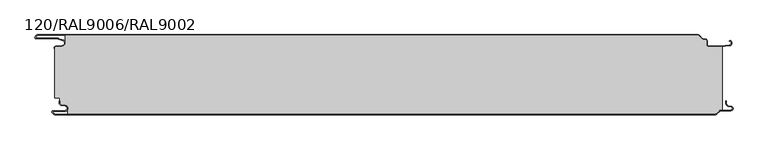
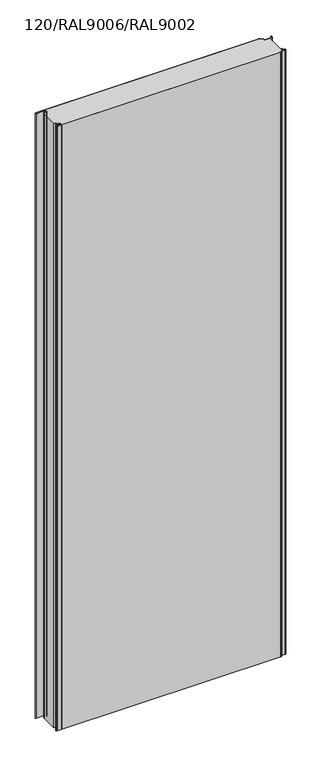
"""IFC4 building model written with IfcOpenShell, lengths in millimetres: plate geometry, TR_C_V_FHL_Panel : 120/RAL9006/RAL9002."""

from ifc_helpers import new_model, si_unit, point, frame_2d, origin, origin_with_axes, place, context, project, spatial, polyline, circle_curve, trimmed, segment, composite_curve, outline, extrude, source, transform, mapped, element, save


def plate_120_ral9006_ral9002_1ee364b3(model_context):
    return source(origin(), model_context, "Body", "SweptSolid", [
        extrude(outline(composite_curve([segment(polyline([(-492.9, -99.0), (-492.1, -99.0), (-492.1, -102.3925589)]), True, "CONTINUOUS"), segment(trimmed(circle_curve(frame_2d((-489.15, -102.3925589)), 2.95), [point((-492.1, -102.3925589))], [point((-489.6622621, -105.2977418))], True, "CARTESIAN"), True, "CONTINUOUS"), segment(polyline([(-489.6622621, -105.2977418), (-483.6119952, -106.364567)]), True, "CONTINUOUS"), segment(trimmed(circle_curve(frame_2d((-484.35, -110.55)), 4.25), [point((-483.6119952, -106.364567))], [point((-484.35, -114.8))], False, "CARTESIAN"), True, "CONTINUOUS"), segment(polyline([(-484.35, -114.8), (-501.95, -114.8)]), True, "CONTINUOUS"), segment(trimmed(circle_curve(frame_2d((-501.95, -115.95)), 1.15), [point((-501.95, -114.8))], [point((-502.7631728, -116.7631728))], True, "CARTESIAN"), True, "CONTINUOUS"), segment(polyline([(-502.7631728, -116.7631728), (-500.8974874, -118.6288582)]), True, "CONTINUOUS"), segment(trimmed(circle_curve(frame_2d((-499.5186292, -117.25)), 1.95), [point((-500.8974874, -118.6288582))], [point((-499.5186292, -119.2))], True, "CARTESIAN"), True, "CONTINUOUS"), segment(polyline([(-499.5186292, -119.2), (489.8218254, -119.2)]), True, "CONTINUOUS"), segment(trimmed(circle_curve(frame_2d((489.8218254, -117.0)), 2.2), [point((489.8218254, -119.2))], [point((491.3774603, -118.5556349))], True, "CARTESIAN"), True, "CONTINUOUS"), segment(polyline([(491.3774603, -118.5556349), (495.7665476, -114.1665476)]), True, "CONTINUOUS"), segment(trimmed(circle_curve(frame_2d((498.1, -116.5)), 3.3), [point((495.7665476, -114.1665476))], [point((498.1, -113.2))], False, "CARTESIAN"), True, "CONTINUOUS"), segment(polyline([(498.1, -113.2), (512.85, -113.2)]), True, "CONTINUOUS"), segment(trimmed(circle_curve(frame_2d((512.85, -110.75)), 2.45), [point((512.85, -113.2))], [point((513.275438, -108.337221))], True, "CARTESIAN"), True, "CONTINUOUS"), segment(polyline([(513.275438, -108.337221), (509.0599008, -107.5939081)]), True, "CONTINUOUS"), segment(trimmed(circle_curve(frame_2d((509.85, -103.1130328)), 4.55), [point((509.0599008, -107.5939081))], [point((505.3, -103.1130328))], False, "CARTESIAN"), True, "CONTINUOUS"), segment(polyline([(505.3, -103.1130328), (505.3, -99.0), (506.1, -99.0), (506.1, -103.1130328)]), True, "CONTINUOUS"), segment(trimmed(circle_curve(frame_2d((509.85, -103.1130328)), 3.75), [point((506.1, -103.1130328))], [point((509.1988193, -106.8060618))], True, "CARTESIAN"), True, "CONTINUOUS"), segment(polyline([(509.1988193, -106.8060618), (513.4143566, -107.5493748)]), True, "CONTINUOUS"), segment(trimmed(circle_curve(frame_2d((512.85, -110.75)), 3.25), [point((513.4143566, -107.5493748))], [point((512.85, -114.0))], False, "CARTESIAN"), True, "CONTINUOUS"), segment(polyline([(512.85, -114.0), (498.1, -114.0)]), True, "CONTINUOUS"), segment(trimmed(circle_curve(frame_2d((498.1, -116.5)), 2.5), [point((498.1, -114.0))], [point((496.332233, -114.732233))], True, "CARTESIAN"), True, "CONTINUOUS"), segment(polyline([(496.332233, -114.732233), (491.9431458, -119.1213203)]), True, "CONTINUOUS"), segment(trimmed(circle_curve(frame_2d((489.8218254, -117.0)), 3.0), [point((491.9431458, -119.1213203))], [point((489.8218254, -120.0))], False, "CARTESIAN"), True, "CONTINUOUS"), segment(polyline([(489.8218254, -120.0), (-499.5186292, -120.0)]), True, "CONTINUOUS"), segment(trimmed(circle_curve(frame_2d((-499.5186292, -117.25)), 2.75), [point((-499.5186292, -120.0))], [point((-501.4631728, -119.1945436))], False, "CARTESIAN"), True, "CONTINUOUS"), segment(polyline([(-501.4631728, -119.1945436), (-503.3288582, -117.3288582)]), True, "CONTINUOUS"), segment(trimmed(circle_curve(frame_2d((-501.95, -115.95)), 1.95), [point((-503.3288582, -117.3288582))], [point((-501.95, -114.0))], False, "CARTESIAN"), True, "CONTINUOUS"), segment(polyline([(-501.95, -114.0), (-484.35, -114.0)]), True, "CONTINUOUS"), segment(trimmed(circle_curve(frame_2d((-484.35, -110.55)), 3.45), [point((-484.35, -114.0))], [point((-483.7509138, -107.1524133))], True, "CARTESIAN"), True, "CONTINUOUS"), segment(polyline([(-483.7509138, -107.1524133), (-489.8011807, -106.085588)]), True, "CONTINUOUS"), segment(trimmed(circle_curve(frame_2d((-489.15, -102.3925589)), 3.75), [point((-489.8011807, -106.085588))], [point((-492.9, -102.3925589))], False, "CARTESIAN"), True, "CONTINUOUS"), segment(polyline([(-492.9, -102.3925589), (-492.9, -99.0)]), True, "CONTINUOUS")], self_intersect=False)), origin_with_axes(), (0.0, 0.0, 1.0), 2830.0),
        extrude(outline(composite_curve([segment(polyline([(-480.1, -119.2), (-480.1, -110.55)]), True, "CONTINUOUS"), segment(trimmed(circle_curve(frame_2d((-484.35, -110.55)), 4.25), [point((-480.1, -110.55))], [point((-483.6119952, -106.364567))], True, "CARTESIAN"), True, "CONTINUOUS"), segment(polyline([(-483.6119952, -106.364567), (-489.6622621, -105.2977418)]), True, "CONTINUOUS"), segment(trimmed(circle_curve(frame_2d((-489.15, -102.3925589)), 2.95), [point((-489.6622621, -105.2977418))], [point((-492.1, -102.3925589))], False, "CARTESIAN"), True, "CONTINUOUS"), segment(polyline([(-492.1, -102.3925589), (-492.1, -94.86), (-500.0, -94.86), (-500.0, -20.8), (-499.9, -19.7908279)]), True, "CONTINUOUS"), segment(trimmed(circle_curve(frame_2d((-498.2, -19.7908279)), 1.7), [point((-499.9, -19.7908279))], [point((-498.3481648, -18.0972969))], False, "CARTESIAN"), True, "CONTINUOUS"), segment(polyline([(-498.3481648, -18.0972969), (-488.4735884, -17.2333835)]), True, "CONTINUOUS"), segment(trimmed(circle_curve(frame_2d((-488.9006516, -12.3520294)), 4.9), [point((-488.4735884, -17.2333835))], [point((-484.0006516, -12.3520294))], True, "CARTESIAN"), True, "CONTINUOUS"), segment(polyline([(-484.0006516, -12.3520294), (-484.0006516, -0.8), (463.4370797, -0.8)]), True, "CONTINUOUS"), segment(trimmed(circle_curve(frame_2d((463.4370797, -2.7)), 1.9), [point((463.4370797, -0.8))], [point((464.7805826, -1.3564971))], False, "CARTESIAN"), True, "CONTINUOUS"), segment(polyline([(464.7805826, -1.3564971), (469.6039845, -6.179899)]), True, "CONTINUOUS"), segment(trimmed(circle_curve(frame_2d((471.5838835, -4.2)), 2.8), [point((469.6039845, -6.179899))], [point((471.5838835, -7.0))], True, "CARTESIAN"), True, "CONTINUOUS"), segment(polyline([(471.5838835, -7.0), (474.4, -7.0)]), True, "CONTINUOUS"), segment(trimmed(circle_curve(frame_2d((474.4, -8.9)), 1.9), [point((474.4, -7.0))], [point((476.3, -8.9))], False, "CARTESIAN"), True, "CONTINUOUS"), segment(polyline([(476.3, -8.9), (476.3, -14.8)]), True, "CONTINUOUS"), segment(trimmed(circle_curve(frame_2d((479.1, -14.8)), 2.8), [point((476.3, -14.8))], [point((479.1, -17.6))], True, "CARTESIAN"), True, "CONTINUOUS"), segment(polyline([(479.1, -17.6), (498.2349288, -17.6), (500.0, -17.4455763), (500.0, -113.2), (498.1, -113.2)]), True, "CONTINUOUS"), segment(trimmed(circle_curve(frame_2d((498.1, -116.5)), 3.3), [point((498.1, -113.2))], [point((495.7665476, -114.1665476))], True, "CARTESIAN"), True, "CONTINUOUS"), segment(polyline([(495.7665476, -114.1665476), (491.3774603, -118.5556349)]), True, "CONTINUOUS"), segment(trimmed(circle_curve(frame_2d((489.8218254, -117.0)), 2.2), [point((491.3774603, -118.5556349))], [point((489.8218254, -119.2))], False, "CARTESIAN"), True, "CONTINUOUS"), segment(polyline([(489.8218254, -119.2), (-480.1, -119.2)]), True, "CONTINUOUS")], self_intersect=False)), origin_with_axes(), (0.0, 0.0, 1.0), 2830.0),
        extrude(outline(composite_curve([segment(trimmed(circle_curve(frame_2d((-525.1006169, -2.7)), 1.9), [point((-525.1006169, -0.8))], [point((-526.4901889, -1.4042031))], True, "CARTESIAN"), True, "CONTINUOUS"), segment(polyline([(-526.4901889, -1.4042031), (-528.3044891, -3.3498018)]), True, "CONTINUOUS"), segment(trimmed(circle_curve(frame_2d((-527.5, -4.1)), 1.1), [point((-528.3044891, -3.3498018))], [point((-527.5, -5.2))], True, "CARTESIAN"), True, "CONTINUOUS"), segment(polyline([(-527.5, -5.2), (-495.1732718, -5.2)]), True, "CONTINUOUS"), segment(trimmed(circle_curve(frame_2d((-495.1732718, -8.5)), 3.3), [point((-495.1732718, -5.2))], [point((-494.0988969, -5.3797887))], False, "CARTESIAN"), True, "CONTINUOUS"), segment(polyline([(-494.0988969, -5.3797887), (-487.3053676, -7.7189884)]), True, "CONTINUOUS"), segment(trimmed(circle_curve(frame_2d((-488.9006516, -12.3520294)), 4.9), [point((-487.3053676, -7.7189884))], [point((-488.4735884, -17.2333835))], False, "CARTESIAN"), True, "CONTINUOUS"), segment(polyline([(-488.4735884, -17.2333835), (-498.3481648, -18.0972969)]), True, "CONTINUOUS"), segment(trimmed(circle_curve(frame_2d((-498.2, -19.7908279)), 1.7), [point((-498.3481648, -18.0972969))], [point((-499.9, -19.7908279))], True, "CARTESIAN"), True, "CONTINUOUS"), segment(polyline([(-499.9, -19.7908279), (-499.9, -20.8), (-500.7, -20.8), (-500.7, -19.7908279)]), True, "CONTINUOUS"), segment(trimmed(circle_curve(frame_2d((-498.2, -19.7908279)), 2.5), [point((-500.7, -19.7908279))], [point((-498.4178894, -17.3003412))], False, "CARTESIAN"), True, "CONTINUOUS"), segment(polyline([(-498.4178894, -17.3003412), (-488.543313, -16.4364277)]), True, "CONTINUOUS"), segment(trimmed(circle_curve(frame_2d((-488.9006516, -12.3520294)), 4.1), [point((-488.543313, -16.4364277))], [point((-487.5658221, -8.4754033))], True, "CARTESIAN"), True, "CONTINUOUS"), segment(polyline([(-487.5658221, -8.4754033), (-494.3593514, -6.1362036)]), True, "CONTINUOUS"), segment(trimmed(circle_curve(frame_2d((-495.1732718, -8.5)), 2.5), [point((-494.3593514, -6.1362036))], [point((-495.1732718, -6.0))], True, "CARTESIAN"), True, "CONTINUOUS"), segment(polyline([(-495.1732718, -6.0), (-527.5, -6.0)]), True, "CONTINUOUS"), segment(trimmed(circle_curve(frame_2d((-527.5, -4.1)), 1.9), [point((-527.5, -6.0))], [point((-528.889572, -2.8042031))], False, "CARTESIAN"), True, "CONTINUOUS"), segment(polyline([(-528.889572, -2.8042031), (-527.0752719, -0.8586044)]), True, "CONTINUOUS"), segment(trimmed(circle_curve(frame_2d((-525.1006169, -2.7)), 2.7), [point((-527.0752719, -0.8586044))], [point((-525.1006169, 0.0))], False, "CARTESIAN"), True, "CONTINUOUS"), segment(polyline([(-525.1006169, 0.0), (463.4370797, 0.0)]), True, "CONTINUOUS"), segment(trimmed(circle_curve(frame_2d((463.4370797, -2.7)), 2.7), [point((463.4370797, 0.0))], [point((465.346268, -0.7908117))], False, "CARTESIAN"), True, "CONTINUOUS"), segment(polyline([(465.346268, -0.7908117), (470.1696699, -5.6142136)]), True, "CONTINUOUS"), segment(trimmed(circle_curve(frame_2d((471.5838835, -4.2)), 2.0), [point((470.1696699, -5.6142136))], [point((471.5838835, -6.2))], True, "CARTESIAN"), True, "CONTINUOUS"), segment(polyline([(471.5838835, -6.2), (474.4, -6.2)]), True, "CONTINUOUS"), segment(trimmed(circle_curve(frame_2d((474.4, -8.9)), 2.7), [point((474.4, -6.2))], [point((477.1, -8.9))], False, "CARTESIAN"), True, "CONTINUOUS"), segment(polyline([(477.1, -8.9), (477.1, -14.8)]), True, "CONTINUOUS"), segment(trimmed(circle_curve(frame_2d((479.1, -14.8)), 2.0), [point((477.1, -14.8))], [point((479.1, -16.8))], True, "CARTESIAN"), True, "CONTINUOUS"), segment(polyline([(479.1, -16.8), (498.2, -16.8), (510.6788984, -15.7082379)]), True, "CONTINUOUS"), segment(trimmed(circle_curve(frame_2d((510.4, -12.5204148)), 3.2), [point((510.6788984, -15.7082379))], [point((511.4418181, -9.4947554))], True, "CARTESIAN"), True, "CONTINUOUS"), segment(polyline([(511.4418181, -9.4947554), (510.5426332, -9.1851412), (510.8030877, -8.4287263), (511.7022726, -8.7383405)]), True, "CONTINUOUS"), segment(trimmed(circle_curve(frame_2d((510.4, -12.5204148)), 4.0), [point((511.7022726, -8.7383405))], [point((510.748623, -16.5051936))], False, "CARTESIAN"), True, "CONTINUOUS"), segment(polyline([(510.748623, -16.5051936), (498.2349288, -17.6), (479.1, -17.6)]), True, "CONTINUOUS"), segment(trimmed(circle_curve(frame_2d((479.1, -14.8)), 2.8), [point((479.1, -17.6))], [point((476.3, -14.8))], False, "CARTESIAN"), True, "CONTINUOUS"), segment(polyline([(476.3, -14.8), (476.3, -8.9)]), True, "CONTINUOUS"), segment(trimmed(circle_curve(frame_2d((474.4, -8.9)), 1.9), [point((476.3, -8.9))], [point((474.4, -7.0))], True, "CARTESIAN"), True, "CONTINUOUS"), segment(polyline([(474.4, -7.0), (471.5838835, -7.0)]), True, "CONTINUOUS"), segment(trimmed(circle_curve(frame_2d((471.5838835, -4.2)), 2.8), [point((471.5838835, -7.0))], [point((469.6039845, -6.179899))], False, "CARTESIAN"), True, "CONTINUOUS"), segment(polyline([(469.6039845, -6.179899), (464.7805826, -1.3564971)]), True, "CONTINUOUS"), segment(trimmed(circle_curve(frame_2d((463.4370797, -2.7)), 1.9), [point((464.7805826, -1.3564971))], [point((463.4370797, -0.8))], True, "CARTESIAN"), True, "CONTINUOUS"), segment(polyline([(463.4370797, -0.8), (-525.1006169, -0.8)]), True, "CONTINUOUS")], self_intersect=False)), origin_with_axes(), (0.0, 0.0, 1.0), 2830.0),
    ])


if __name__ == "__main__":
    model = new_model("IFC4")
    model_context = context("Model", 3, world=origin())
    ifc_project = project(units=[si_unit("LENGTHUNIT", "METRE", prefix="MILLI")], contexts=[model_context])
    site = spatial("IfcSite", under=ifc_project)
    building = spatial("IfcBuilding", under=site)
    placement = place(None, origin())
    plate_120_ral9006_ral9002_shape = plate_120_ral9006_ral9002_1ee364b3(model_context)
    element("IfcPlate", 1, ObjectType="TR_C_V_FHL_Panel : 120/RAL9006/RAL9002", at=placement, inside=building, context=model_context, shape_type="MappedRepresentation", body=[
        mapped(plate_120_ral9006_ral9002_shape, transform((0.0, 0.0, 0.0), x_axis=(1.0, 0.0, 0.0), y_axis=(0.0, 1.0, 0.0), z_axis=(0.0, 0.0, 1.0))),
    ])
    save(model, "model.ifc")
